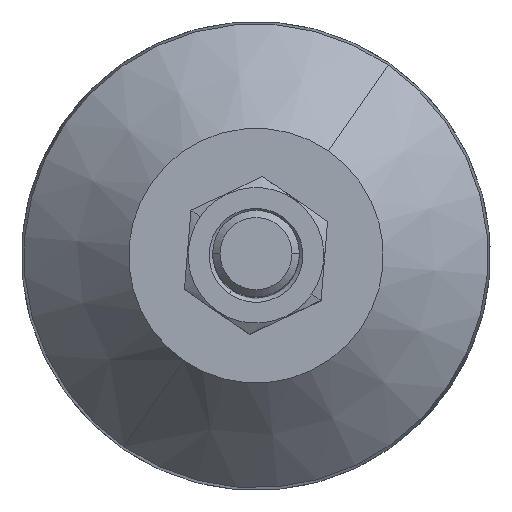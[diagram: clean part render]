
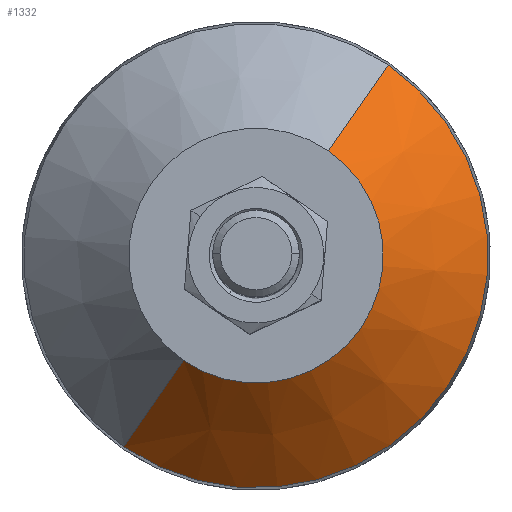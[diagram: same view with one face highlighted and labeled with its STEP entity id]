
A CAD part, top view. The second image highlights one B-rep face of the part: STEP entity #1332.
In plain terms, the highlighted conical face has half-angle 45 degrees and reference radius 32.151 mm.
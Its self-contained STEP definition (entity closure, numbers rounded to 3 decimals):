
#4 = LINE ( 'NONE', #3173, #107 ) ;
#47 = LINE ( 'NONE', #2154, #50 ) ;
#50 = VECTOR ( 'NONE', #2424, 1000. ) ;
#107 = VECTOR ( 'NONE', #1083, 1000. ) ;
#117 = DIRECTION ( 'NONE',  ( 0.569, 0.822, 0. ) ) ;
#240 = CONICAL_SURFACE ( 'NONE', #1019, 32.151, 0.785 ) ;
#287 = FACE_OUTER_BOUND ( 'NONE', #2482, .T. ) ;
#370 = DIRECTION ( 'NONE',  ( 0., 0., -1. ) ) ;
#648 = CARTESIAN_POINT ( 'NONE',  ( 0., 0., 24.581 ) ) ;
#949 = DIRECTION ( 'NONE',  ( 0.569, 0.822, 0. ) ) ;
#1019 = AXIS2_PLACEMENT_3D ( 'NONE', #3319, #370, #117 ) ;
#1083 = DIRECTION ( 'NONE',  ( -0.402, -0.581, -0.707 ) ) ;
#1089 = DIRECTION ( 'NONE',  ( 0., 0., -1. ) ) ;
#1332 = ADVANCED_FACE ( 'NONE', ( #287 ), #240, .T. ) ;
#1396 = ORIENTED_EDGE ( 'NONE', *, *, #2533, .T. ) ;
#1471 = VERTEX_POINT ( 'NONE', #2241 ) ;
#1533 = CARTESIAN_POINT ( 'NONE',  ( -10.047, -14.512, 24.581 ) ) ;
#1564 = ORIENTED_EDGE ( 'NONE', *, *, #1914, .F. ) ;
#1914 = EDGE_CURVE ( 'NONE', #1471, #2450, #47, .T. ) ;
#2124 = EDGE_CURVE ( 'NONE', #2937, #2792, #4, .T. ) ;
#2154 = CARTESIAN_POINT ( 'NONE',  ( 18.301, 26.434, 10.081 ) ) ;
#2241 = CARTESIAN_POINT ( 'NONE',  ( 10.047, 14.512, 24.581 ) ) ;
#2328 = AXIS2_PLACEMENT_3D ( 'NONE', #2923, #1089, #3180 ) ;
#2335 = ORIENTED_EDGE ( 'NONE', *, *, #2755, .F. ) ;
#2424 = DIRECTION ( 'NONE',  ( 0.402, 0.581, -0.707 ) ) ;
#2450 = VERTEX_POINT ( 'NONE', #2529 ) ;
#2482 = EDGE_LOOP ( 'NONE', ( #1396, #2855, #2335, #1564 ) ) ;
#2529 = CARTESIAN_POINT ( 'NONE',  ( 18.301, 26.434, 10.081 ) ) ;
#2533 = EDGE_CURVE ( 'NONE', #1471, #2937, #3098, .T. ) ;
#2755 = EDGE_CURVE ( 'NONE', #2450, #2792, #2876, .T. ) ;
#2768 = DIRECTION ( 'NONE',  ( 0., 0., -1. ) ) ;
#2792 = VERTEX_POINT ( 'NONE', #2972 ) ;
#2855 = ORIENTED_EDGE ( 'NONE', *, *, #2124, .T. ) ;
#2869 = AXIS2_PLACEMENT_3D ( 'NONE', #648, #2768, #949 ) ;
#2876 = CIRCLE ( 'NONE', #2328, 32.151 ) ;
#2923 = CARTESIAN_POINT ( 'NONE',  ( 0., 0., 10.081 ) ) ;
#2937 = VERTEX_POINT ( 'NONE', #1533 ) ;
#2972 = CARTESIAN_POINT ( 'NONE',  ( -18.301, -26.434, 10.081 ) ) ;
#3098 = CIRCLE ( 'NONE', #2869, 17.651 ) ;
#3173 = CARTESIAN_POINT ( 'NONE',  ( -18.301, -26.434, 10.081 ) ) ;
#3180 = DIRECTION ( 'NONE',  ( 0.569, 0.822, 0. ) ) ;
#3319 = CARTESIAN_POINT ( 'NONE',  ( 0., 0., 10.081 ) ) ;
